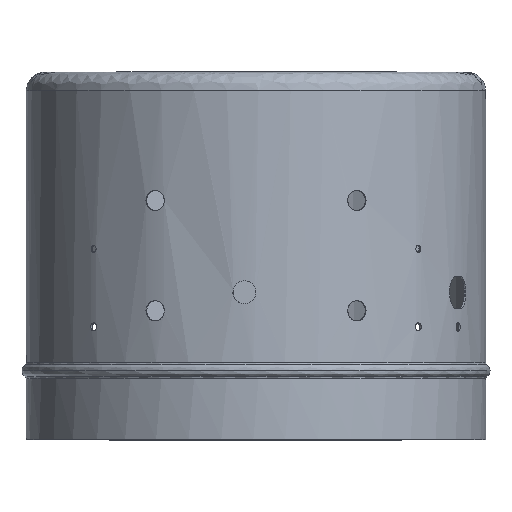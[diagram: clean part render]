
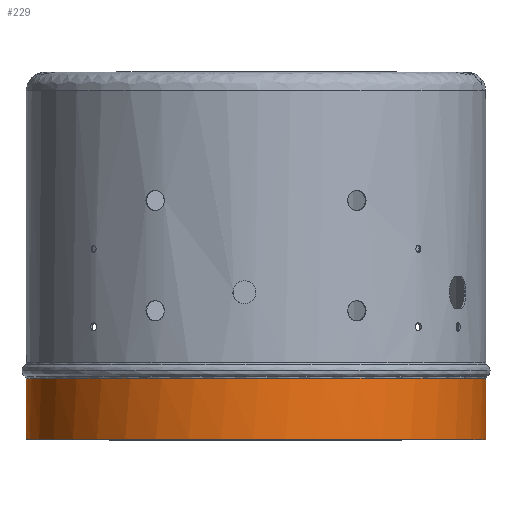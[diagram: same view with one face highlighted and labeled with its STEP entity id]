
A CAD part, top view. The second image highlights one B-rep face of the part: STEP entity #229.
In plain terms, the highlighted cylindrical face has radius 100 mm (diameter 200 mm), a partial arc.
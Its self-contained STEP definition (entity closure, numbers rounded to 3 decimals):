
#51=B_SPLINE_CURVE_WITH_KNOTS('',1,(#4422,#4423),.UNSPECIFIED.,.F.,.F.,
(2,2),(0.,26.596),.UNSPECIFIED.);
#52=B_SPLINE_CURVE_WITH_KNOTS('',1,(#4424,#4425),.UNSPECIFIED.,.F.,.F.,
(2,2),(0.,26.596),.UNSPECIFIED.);
#152=CYLINDRICAL_SURFACE('',#1461,100.);
#229=ADVANCED_FACE('',(#317),#152,.T.);
#317=FACE_OUTER_BOUND('',#420,.T.);
#420=EDGE_LOOP('',(#624,#625,#626,#627));
#624=ORIENTED_EDGE('',*,*,#952,.T.);
#625=ORIENTED_EDGE('',*,*,#951,.T.);
#626=ORIENTED_EDGE('',*,*,#953,.T.);
#627=ORIENTED_EDGE('',*,*,#954,.T.);
#951=EDGE_CURVE('',#1256,#1257,#1145,.T.);
#952=EDGE_CURVE('',#1258,#1256,#51,.T.);
#953=EDGE_CURVE('',#1257,#1259,#52,.T.);
#954=EDGE_CURVE('',#1259,#1258,#1146,.T.);
#1145=(
BOUNDED_CURVE()
B_SPLINE_CURVE(2,(#4417,#4418,#4419,#4420,#4421),.UNSPECIFIED.,.F.,.F.)
B_SPLINE_CURVE_WITH_KNOTS((3,2,3),(-314.159,-157.08,0.),
 .UNSPECIFIED.)
CURVE()
GEOMETRIC_REPRESENTATION_ITEM()
RATIONAL_B_SPLINE_CURVE((1.,0.707,1.,0.707,1.))
REPRESENTATION_ITEM('')
);
#1146=(
BOUNDED_CURVE()
B_SPLINE_CURVE(2,(#4426,#4427,#4428,#4429,#4430),.UNSPECIFIED.,.F.,.F.)
B_SPLINE_CURVE_WITH_KNOTS((3,2,3),(0.,157.08,314.159),
 .UNSPECIFIED.)
CURVE()
GEOMETRIC_REPRESENTATION_ITEM()
RATIONAL_B_SPLINE_CURVE((1.,0.707,1.,0.707,1.))
REPRESENTATION_ITEM('')
);
#1256=VERTEX_POINT('',#4240);
#1257=VERTEX_POINT('',#4241);
#1258=VERTEX_POINT('',#4242);
#1259=VERTEX_POINT('',#4243);
#1461=AXIS2_PLACEMENT_3D('',#2855,#1516,$);
#1516=DIRECTION('',(0.,-1.,0.));
#2855=CARTESIAN_POINT('',(101.9,13.298,-116.005));
#4240=CARTESIAN_POINT('',(201.9,26.596,-116.005));
#4241=CARTESIAN_POINT('',(1.9,26.596,-116.005));
#4242=CARTESIAN_POINT('',(201.9,0.,-116.005));
#4243=CARTESIAN_POINT('',(1.9,0.,-116.005));
#4417=CARTESIAN_POINT('',(201.9,26.596,-116.005));
#4418=CARTESIAN_POINT('',(201.9,26.596,-16.005));
#4419=CARTESIAN_POINT('',(101.9,26.596,-16.005));
#4420=CARTESIAN_POINT('',(1.9,26.596,-16.005));
#4421=CARTESIAN_POINT('',(1.9,26.596,-116.005));
#4422=CARTESIAN_POINT('',(201.9,0.,-116.005));
#4423=CARTESIAN_POINT('',(201.9,26.596,-116.005));
#4424=CARTESIAN_POINT('',(1.9,26.596,-116.005));
#4425=CARTESIAN_POINT('',(1.9,0.,-116.005));
#4426=CARTESIAN_POINT('',(1.9,0.,-116.005));
#4427=CARTESIAN_POINT('',(1.9,0.,-16.005));
#4428=CARTESIAN_POINT('',(101.9,0.,-16.005));
#4429=CARTESIAN_POINT('',(201.9,0.,-16.005));
#4430=CARTESIAN_POINT('',(201.9,0.,-116.005));
